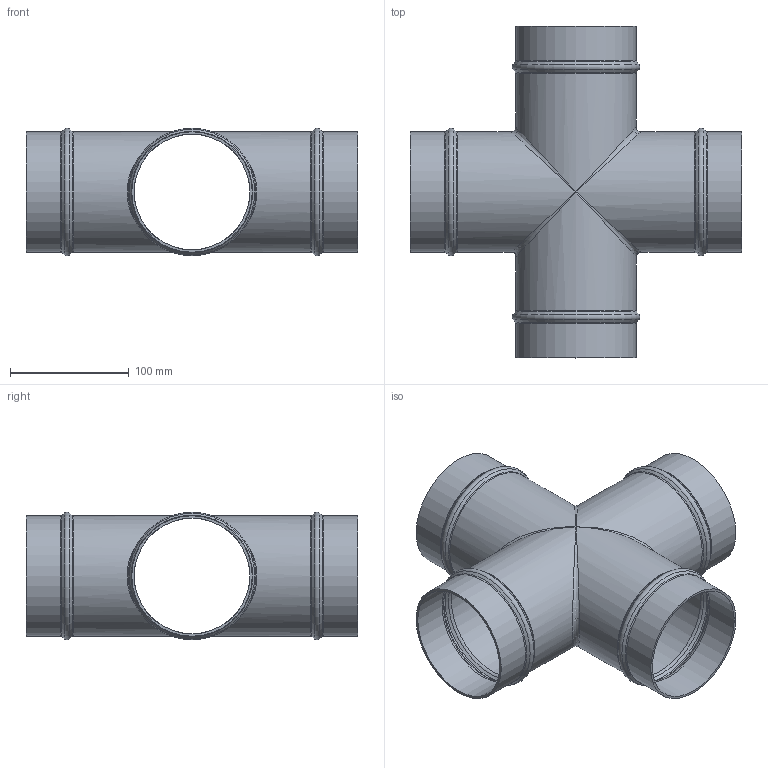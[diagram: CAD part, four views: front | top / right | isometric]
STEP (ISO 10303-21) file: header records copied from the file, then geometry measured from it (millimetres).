
FILE_DESCRIPTION(/* description */ (''),/* implementation_level */ '2;1');
FILE_NAME(/* name */ '30214080001.stp',/* time_stamp */ '2024-08-28T13:19:22+08:00',/* author */ (''),/* organization */ (''),/* preprocessor_version */ 'ST-DEVELOPER v14',/* originating_system */ 'SIEMENS PLM Software NX 8.0',/* authorisation */ '');
FILE_SCHEMA (('CONFIG_CONTROL_DESIGN'));
Length unit declared in the file: millimetre
Products named in the file (1): 30214080001
Bounding box: 280 x 280 x 107.6 mm (x, y, z)
Volume: 277386.6 mm3; surface area: 278648 mm2
Topology: 1 solids, 1 shells, 64 faces, 148 edges, 76 vertices
Faces by surface type: torus 24, cylinder 16, cone 16, plane 4, bspline 4
Full cylindrical faces by diameter (mm): 97.6 x8, 101.6 x8
Entity records: 1824 total; most frequent: CARTESIAN_POINT 669, DIRECTION 242, ORIENTED_EDGE 136, EDGE_LOOP 124, AXIS2_PLACEMENT_3D 121, FACE_BOUND 120, EDGE_CURVE 68, ADVANCED_FACE 64
